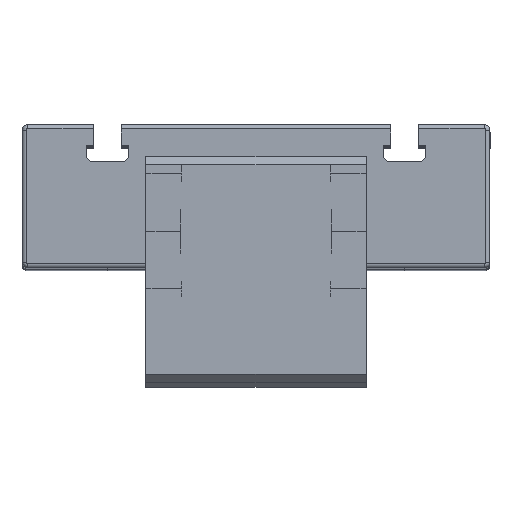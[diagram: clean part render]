
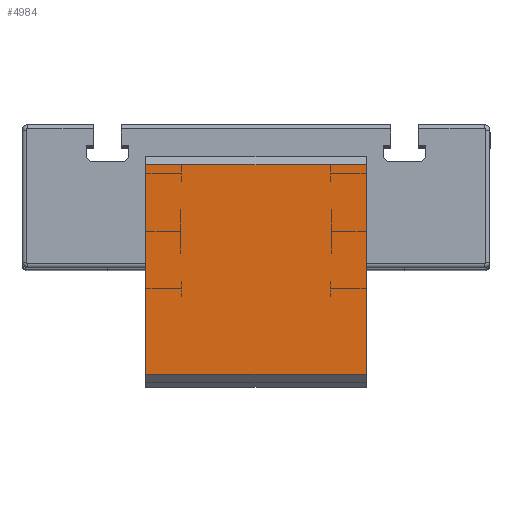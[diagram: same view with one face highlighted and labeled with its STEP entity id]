
A CAD part, top view. The second image highlights one B-rep face of the part: STEP entity #4984.
In plain terms, the highlighted planar face has unit normal (0, 0, 1).
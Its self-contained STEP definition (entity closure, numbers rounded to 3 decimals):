
#113 = CARTESIAN_POINT ( 'NONE',  ( 0., 0., 29.5 ) ) ;
#667 = CARTESIAN_POINT ( 'NONE',  ( 80., 79.05, 29.5 ) ) ;
#722 = PLANE ( 'NONE',  #1081 ) ;
#1081 = AXIS2_PLACEMENT_3D ( 'NONE', #1880, #6248, #5323 ) ;
#1326 = VECTOR ( 'NONE', #3299, 1000. ) ;
#1807 = DIRECTION ( 'NONE',  ( -1., 0., 0. ) ) ;
#1880 = CARTESIAN_POINT ( 'NONE',  ( 80., 0., 29.5 ) ) ;
#2050 = EDGE_LOOP ( 'NONE', ( #2137, #3359, #8096, #11865 ) ) ;
#2137 = ORIENTED_EDGE ( 'NONE', *, *, #4151, .T. ) ;
#2154 = DIRECTION ( 'NONE',  ( -1., 0., 0. ) ) ;
#3034 = CARTESIAN_POINT ( 'NONE',  ( 0., 79.05, 29.5 ) ) ;
#3182 = CARTESIAN_POINT ( 'NONE',  ( 80., 2.95, 29.5 ) ) ;
#3299 = DIRECTION ( 'NONE',  ( 0., -1., 0. ) ) ;
#3359 = ORIENTED_EDGE ( 'NONE', *, *, #4918, .F. ) ;
#3400 = CARTESIAN_POINT ( 'NONE',  ( 80., 79.05, 29.5 ) ) ;
#4151 = EDGE_CURVE ( 'NONE', #6839, #11724, #10154, .T. ) ;
#4264 = CARTESIAN_POINT ( 'NONE',  ( 80., 2.95, 29.5 ) ) ;
#4918 = EDGE_CURVE ( 'NONE', #8659, #11724, #10563, .T. ) ;
#4984 = ADVANCED_FACE ( 'NONE', ( #6172 ), #722, .F. ) ;
#5210 = CARTESIAN_POINT ( 'NONE',  ( 0., 2.95, 29.5 ) ) ;
#5323 = DIRECTION ( 'NONE',  ( 0., 1., 0. ) ) ;
#6126 = VECTOR ( 'NONE', #1807, 1000. ) ;
#6172 = FACE_OUTER_BOUND ( 'NONE', #2050, .T. ) ;
#6248 = DIRECTION ( 'NONE',  ( 0., 0., -1. ) ) ;
#6802 = LINE ( 'NONE', #3400, #7194 ) ;
#6839 = VERTEX_POINT ( 'NONE', #3034 ) ;
#7194 = VECTOR ( 'NONE', #2154, 1000. ) ;
#7307 = LINE ( 'NONE', #12854, #10734 ) ;
#8096 = ORIENTED_EDGE ( 'NONE', *, *, #11305, .F. ) ;
#8174 = VERTEX_POINT ( 'NONE', #667 ) ;
#8659 = VERTEX_POINT ( 'NONE', #3182 ) ;
#8907 = EDGE_CURVE ( 'NONE', #8174, #6839, #6802, .T. ) ;
#10154 = LINE ( 'NONE', #113, #1326 ) ;
#10563 = LINE ( 'NONE', #4264, #6126 ) ;
#10734 = VECTOR ( 'NONE', #11693, 1000. ) ;
#11305 = EDGE_CURVE ( 'NONE', #8174, #8659, #7307, .T. ) ;
#11693 = DIRECTION ( 'NONE',  ( 0., -1., 0. ) ) ;
#11724 = VERTEX_POINT ( 'NONE', #5210 ) ;
#11865 = ORIENTED_EDGE ( 'NONE', *, *, #8907, .T. ) ;
#12854 = CARTESIAN_POINT ( 'NONE',  ( 80., 0., 29.5 ) ) ;
